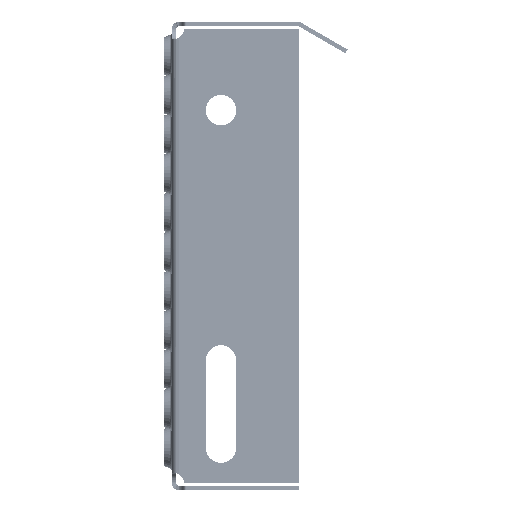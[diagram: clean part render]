
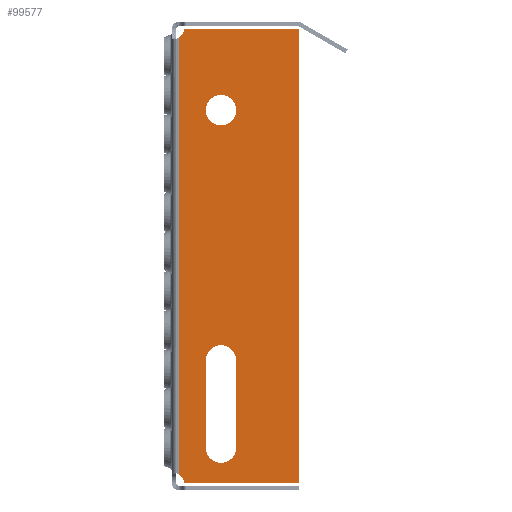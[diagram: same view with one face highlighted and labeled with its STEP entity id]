
A CAD part, left-side view. The second image highlights one B-rep face of the part: STEP entity #99577.
In plain terms, the highlighted planar face has unit normal (-1, 0, 0).
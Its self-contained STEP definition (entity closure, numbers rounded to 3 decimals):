
#1160 = VERTEX_POINT ( 'NONE', #42265 ) ;
#1911 = DIRECTION ( 'NONE',  ( 0., 0., -1. ) ) ;
#2393 = CARTESIAN_POINT ( 'NONE',  ( -750., -22.5, 47.5 ) ) ;
#2679 = DIRECTION ( 'NONE',  ( 0., 0., -1. ) ) ;
#2778 = VERTEX_POINT ( 'NONE', #85766 ) ;
#5010 = DIRECTION ( 'NONE',  ( -1., 0., 0. ) ) ;
#6148 = DIRECTION ( 'NONE',  ( 0., 0., -1. ) ) ;
#6353 = AXIS2_PLACEMENT_3D ( 'NONE', #74314, #26743, #82251 ) ;
#6865 = EDGE_CURVE ( 'NONE', #2778, #44230, #11595, .T. ) ;
#8445 = EDGE_CURVE ( 'NONE', #54932, #54932, #41048, .T. ) ;
#10377 = ORIENTED_EDGE ( 'NONE', *, *, #62001, .F. ) ;
#10712 = AXIS2_PLACEMENT_3D ( 'NONE', #21872, #77379, #29802 ) ;
#11595 = CIRCLE ( 'NONE', #6353, 7. ) ;
#11859 = ORIENTED_EDGE ( 'NONE', *, *, #6865, .F. ) ;
#12630 = EDGE_CURVE ( 'NONE', #44230, #45465, #34107, .T. ) ;
#12874 = EDGE_CURVE ( 'NONE', #94231, #36295, #35278, .T. ) ;
#13333 = EDGE_CURVE ( 'NONE', #94231, #101583, #15068, .T. ) ;
#14107 = CARTESIAN_POINT ( 'NONE',  ( -750., -15.5, -60.5 ) ) ;
#15006 = VECTOR ( 'NONE', #98078, 1000. ) ;
#15018 = FACE_BOUND ( 'NONE', #54817, .T. ) ;
#15048 = CARTESIAN_POINT ( 'NONE',  ( -750., -6.416, 91. ) ) ;
#15068 = CIRCLE ( 'NONE', #58195, 5. ) ;
#15228 = VECTOR ( 'NONE', #66508, 1000. ) ;
#16061 = CARTESIAN_POINT ( 'NONE',  ( -750., -15.5, -100.5 ) ) ;
#16321 = AXIS2_PLACEMENT_3D ( 'NONE', #97685, #50184, #2679 ) ;
#17026 = AXIS2_PLACEMENT_3D ( 'NONE', #56837, #88713, #41155 ) ;
#17181 = VERTEX_POINT ( 'NONE', #26967 ) ;
#19671 = ORIENTED_EDGE ( 'NONE', *, *, #102181, .T. ) ;
#19876 = ORIENTED_EDGE ( 'NONE', *, *, #13333, .T. ) ;
#21001 = EDGE_CURVE ( 'NONE', #75349, #23459, #51807, .T. ) ;
#21872 = CARTESIAN_POINT ( 'NONE',  ( -750., -6.416, -116. ) ) ;
#22267 = CARTESIAN_POINT ( 'NONE',  ( -750., -5.43, 91.167 ) ) ;
#23069 = DIRECTION ( 'NONE',  ( 0., 0., 1. ) ) ;
#23459 = VERTEX_POINT ( 'NONE', #93093 ) ;
#25880 = EDGE_LOOP ( 'NONE', ( #78415, #19876, #95893, #82896, #66806, #95892, #19671, #28814 ) ) ;
#26743 = DIRECTION ( 'NONE',  ( -1., 0., 0. ) ) ;
#26967 = CARTESIAN_POINT ( 'NONE',  ( -750., -6.416, -117. ) ) ;
#27885 = VECTOR ( 'NONE', #96226, 1000. ) ;
#28132 = EDGE_CURVE ( 'NONE', #17181, #75349, #30738, .T. ) ;
#28814 = ORIENTED_EDGE ( 'NONE', *, *, #62871, .T. ) ;
#29802 = DIRECTION ( 'NONE',  ( 0., 0., -1. ) ) ;
#30738 = LINE ( 'NONE', #70529, #73011 ) ;
#31530 = EDGE_CURVE ( 'NONE', #23459, #1160, #99619, .T. ) ;
#32881 = ORIENTED_EDGE ( 'NONE', *, *, #34285, .F. ) ;
#33851 = AXIS2_PLACEMENT_3D ( 'NONE', #15048, #70614, #23069 ) ;
#34107 = LINE ( 'NONE', #14107, #76419 ) ;
#34285 = EDGE_CURVE ( 'NONE', #45465, #91131, #75652, .T. ) ;
#35117 = CIRCLE ( 'NONE', #10712, 1. ) ;
#35278 = LINE ( 'NONE', #40399, #27885 ) ;
#36295 = VERTEX_POINT ( 'NONE', #48078 ) ;
#37548 = ORIENTED_EDGE ( 'NONE', *, *, #8445, .F. ) ;
#37871 = CARTESIAN_POINT ( 'NONE',  ( -750., -0.5, -117. ) ) ;
#39178 = CARTESIAN_POINT ( 'NONE',  ( -750., -58.5, -117. ) ) ;
#39419 = CARTESIAN_POINT ( 'NONE',  ( -750., -29.5, -100.5 ) ) ;
#40179 = DIRECTION ( 'NONE',  ( 0., 0., 1. ) ) ;
#40399 = CARTESIAN_POINT ( 'NONE',  ( -750., -3., -122.916 ) ) ;
#41048 = CIRCLE ( 'NONE', #50989, 7. ) ;
#41155 = DIRECTION ( 'NONE',  ( 0., 0., -1. ) ) ;
#42265 = CARTESIAN_POINT ( 'NONE',  ( -750., -6.416, 92. ) ) ;
#44230 = VERTEX_POINT ( 'NONE', #46052 ) ;
#45465 = VERTEX_POINT ( 'NONE', #16061 ) ;
#45919 = DIRECTION ( 'NONE',  ( 0., 0., -1. ) ) ;
#46052 = CARTESIAN_POINT ( 'NONE',  ( -750., -15.5, -60.5 ) ) ;
#48078 = CARTESIAN_POINT ( 'NONE',  ( -750., -3., 87.67 ) ) ;
#49306 = VECTOR ( 'NONE', #40179, 1000. ) ;
#49437 = DIRECTION ( 'NONE',  ( -1., 0., 0. ) ) ;
#50184 = DIRECTION ( 'NONE',  ( 1., 0., 0. ) ) ;
#50989 = AXIS2_PLACEMENT_3D ( 'NONE', #52546, #5010, #60548 ) ;
#51807 = LINE ( 'NONE', #87742, #49306 ) ;
#52546 = CARTESIAN_POINT ( 'NONE',  ( -750., -22.5, 54.5 ) ) ;
#54565 = DIRECTION ( 'NONE',  ( 0., -1., 0. ) ) ;
#54798 = FACE_OUTER_BOUND ( 'NONE', #25880, .T. ) ;
#54817 = EDGE_LOOP ( 'NONE', ( #37548 ) ) ;
#54932 = VERTEX_POINT ( 'NONE', #2393 ) ;
#56837 = CARTESIAN_POINT ( 'NONE',  ( -750., 0.5, -122.916 ) ) ;
#58195 = AXIS2_PLACEMENT_3D ( 'NONE', #37871, #93405, #45919 ) ;
#58395 = AXIS2_PLACEMENT_3D ( 'NONE', #96926, #49437, #1911 ) ;
#59690 = EDGE_CURVE ( 'NONE', #101583, #17181, #35117, .T. ) ;
#60548 = DIRECTION ( 'NONE',  ( 0., 0., -1. ) ) ;
#62001 = EDGE_CURVE ( 'NONE', #91131, #2778, #68437, .T. ) ;
#62871 = EDGE_CURVE ( 'NONE', #96495, #36295, #68240, .T. ) ;
#66260 = CARTESIAN_POINT ( 'NONE',  ( -750., -29.5, -60.5 ) ) ;
#66508 = DIRECTION ( 'NONE',  ( 0., 1., 0. ) ) ;
#66806 = ORIENTED_EDGE ( 'NONE', *, *, #21001, .T. ) ;
#68240 = CIRCLE ( 'NONE', #16321, 5. ) ;
#68437 = LINE ( 'NONE', #66260, #15006 ) ;
#69256 = CIRCLE ( 'NONE', #33851, 1. ) ;
#70529 = CARTESIAN_POINT ( 'NONE',  ( -750., -6.416, -117. ) ) ;
#70614 = DIRECTION ( 'NONE',  ( -1., 0., 0. ) ) ;
#71069 = CARTESIAN_POINT ( 'NONE',  ( -750., -5.43, -116.167 ) ) ;
#72822 = PLANE ( 'NONE',  #17026 ) ;
#73011 = VECTOR ( 'NONE', #54565, 1000. ) ;
#74128 = CARTESIAN_POINT ( 'NONE',  ( -750., -58.5, 92. ) ) ;
#74314 = CARTESIAN_POINT ( 'NONE',  ( -750., -22.5, -60.5 ) ) ;
#75349 = VERTEX_POINT ( 'NONE', #39178 ) ;
#75652 = CIRCLE ( 'NONE', #58395, 7. ) ;
#75763 = CARTESIAN_POINT ( 'NONE',  ( -750., -3., -112.67 ) ) ;
#76419 = VECTOR ( 'NONE', #6148, 1000. ) ;
#77379 = DIRECTION ( 'NONE',  ( -1., 0., 0. ) ) ;
#78415 = ORIENTED_EDGE ( 'NONE', *, *, #12874, .F. ) ;
#82251 = DIRECTION ( 'NONE',  ( 0., 0., -1. ) ) ;
#82896 = ORIENTED_EDGE ( 'NONE', *, *, #28132, .T. ) ;
#85766 = CARTESIAN_POINT ( 'NONE',  ( -750., -29.5, -60.5 ) ) ;
#87742 = CARTESIAN_POINT ( 'NONE',  ( -750., -58.5, -117. ) ) ;
#88713 = DIRECTION ( 'NONE',  ( 1., 0., 0. ) ) ;
#88816 = EDGE_LOOP ( 'NONE', ( #91830, #11859, #10377, #32881 ) ) ;
#91131 = VERTEX_POINT ( 'NONE', #39419 ) ;
#91830 = ORIENTED_EDGE ( 'NONE', *, *, #12630, .F. ) ;
#93093 = CARTESIAN_POINT ( 'NONE',  ( -750., -58.5, 92. ) ) ;
#93405 = DIRECTION ( 'NONE',  ( 1., 0., 0. ) ) ;
#94231 = VERTEX_POINT ( 'NONE', #75763 ) ;
#95892 = ORIENTED_EDGE ( 'NONE', *, *, #31530, .T. ) ;
#95893 = ORIENTED_EDGE ( 'NONE', *, *, #59690, .T. ) ;
#96226 = DIRECTION ( 'NONE',  ( 0., 0., 1. ) ) ;
#96495 = VERTEX_POINT ( 'NONE', #22267 ) ;
#96926 = CARTESIAN_POINT ( 'NONE',  ( -750., -22.5, -100.5 ) ) ;
#97685 = CARTESIAN_POINT ( 'NONE',  ( -750., -0.5, 92. ) ) ;
#98078 = DIRECTION ( 'NONE',  ( 0., 0., 1. ) ) ;
#99400 = FACE_BOUND ( 'NONE', #88816, .T. ) ;
#99577 = ADVANCED_FACE ( 'NONE', ( #54798, #15018, #99400 ), #72822, .F. ) ;
#99619 = LINE ( 'NONE', #74128, #15228 ) ;
#101583 = VERTEX_POINT ( 'NONE', #71069 ) ;
#102181 = EDGE_CURVE ( 'NONE', #1160, #96495, #69256, .T. ) ;
